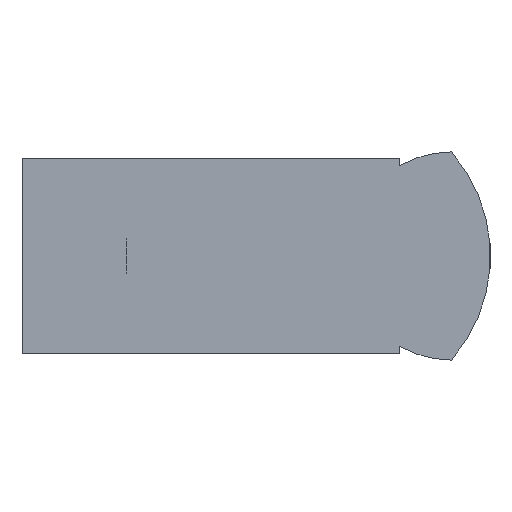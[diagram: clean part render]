
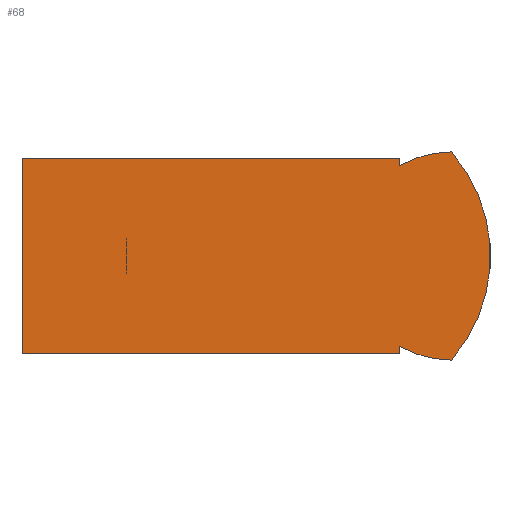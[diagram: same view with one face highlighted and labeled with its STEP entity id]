
A CAD part, left-side view. The second image highlights one B-rep face of the part: STEP entity #68.
In plain terms, the highlighted planar face has unit normal (-1, 0, 0).
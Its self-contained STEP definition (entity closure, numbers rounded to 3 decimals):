
#68 = ADVANCED_FACE( '', ( #153 ), #154, .F. );
#153 = FACE_OUTER_BOUND( '', #258, .T. );
#154 = PLANE( '', #259 );
#258 = EDGE_LOOP( '', ( #393, #394, #395, #396, #397, #398, #399, #400 ) );
#259 = AXIS2_PLACEMENT_3D( '', #401, #402, #403 );
#393 = ORIENTED_EDGE( '', *, *, #622, .F. );
#394 = ORIENTED_EDGE( '', *, *, #623, .T. );
#395 = ORIENTED_EDGE( '', *, *, #624, .T. );
#396 = ORIENTED_EDGE( '', *, *, #588, .F. );
#397 = ORIENTED_EDGE( '', *, *, #625, .F. );
#398 = ORIENTED_EDGE( '', *, *, #626, .T. );
#399 = ORIENTED_EDGE( '', *, *, #627, .F. );
#400 = ORIENTED_EDGE( '', *, *, #628, .F. );
#401 = CARTESIAN_POINT( '', ( -6., -28.416, 0. ) );
#402 = DIRECTION( '', ( 1., 0., 0. ) );
#403 = DIRECTION( '', ( 0., 0., -1. ) );
#588 = EDGE_CURVE( '', #685, #686, #687, .T. );
#622 = EDGE_CURVE( '', #744, #745, #746, .T. );
#623 = EDGE_CURVE( '', #744, #747, #748, .T. );
#624 = EDGE_CURVE( '', #747, #686, #749, .T. );
#625 = EDGE_CURVE( '', #750, #685, #751, .T. );
#626 = EDGE_CURVE( '', #750, #752, #753, .T. );
#627 = EDGE_CURVE( '', #754, #752, #755, .T. );
#628 = EDGE_CURVE( '', #745, #754, #756, .T. );
#685 = VERTEX_POINT( '', #827 );
#686 = VERTEX_POINT( '', #828 );
#687 = LINE( '', #829, #830 );
#744 = VERTEX_POINT( '', #910 );
#745 = VERTEX_POINT( '', #911 );
#746 = CIRCLE( '', #912, 8. );
#747 = VERTEX_POINT( '', #913 );
#748 = LINE( '', #914, #915 );
#749 = LINE( '', #916, #917 );
#750 = VERTEX_POINT( '', #918 );
#751 = LINE( '', #919, #920 );
#752 = VERTEX_POINT( '', #921 );
#753 = LINE( '', #922, #923 );
#754 = VERTEX_POINT( '', #924 );
#755 = CIRCLE( '', #925, 8. );
#756 = CIRCLE( '', #926, 12.167 );
#827 = CARTESIAN_POINT( '', ( -6., 0., -7.5 ) );
#828 = CARTESIAN_POINT( '', ( -6., 0., 7.5 ) );
#829 = CARTESIAN_POINT( '', ( -6., 0., -7.5 ) );
#830 = VECTOR( '', #1019, 1000. );
#910 = CARTESIAN_POINT( '', ( -6., -29., 6.928 ) );
#911 = CARTESIAN_POINT( '', ( -6., -33., 8. ) );
#912 = AXIS2_PLACEMENT_3D( '', #1052, #1053, #1054 );
#913 = CARTESIAN_POINT( '', ( -6., -29., 7.5 ) );
#914 = CARTESIAN_POINT( '', ( -6., -29., -7.5 ) );
#915 = VECTOR( '', #1055, 1000. );
#916 = CARTESIAN_POINT( '', ( -6., -29., 7.5 ) );
#917 = VECTOR( '', #1056, 1000. );
#918 = CARTESIAN_POINT( '', ( -6., -29., -7.5 ) );
#919 = CARTESIAN_POINT( '', ( -6., -29., -7.5 ) );
#920 = VECTOR( '', #1057, 1000. );
#921 = CARTESIAN_POINT( '', ( -6., -29., -6.928 ) );
#922 = CARTESIAN_POINT( '', ( -6., -29., -7.5 ) );
#923 = VECTOR( '', #1058, 1000. );
#924 = CARTESIAN_POINT( '', ( -6., -33., -8. ) );
#925 = AXIS2_PLACEMENT_3D( '', #1059, #1060, #1061 );
#926 = AXIS2_PLACEMENT_3D( '', #1062, #1063, #1064 );
#1019 = DIRECTION( '', ( 0., 0., 1. ) );
#1052 = CARTESIAN_POINT( '', ( -6., -33., 0. ) );
#1053 = DIRECTION( '', ( 1., 0., 0. ) );
#1054 = DIRECTION( '', ( 0., 0., -1. ) );
#1055 = DIRECTION( '', ( 0., 0., 1. ) );
#1056 = DIRECTION( '', ( 0., 1., 0. ) );
#1057 = DIRECTION( '', ( 0., 1., 0. ) );
#1058 = DIRECTION( '', ( 0., 0., 1. ) );
#1059 = CARTESIAN_POINT( '', ( -6., -33., 0. ) );
#1060 = DIRECTION( '', ( 1., 0., 0. ) );
#1061 = DIRECTION( '', ( 0., 0., -1. ) );
#1062 = CARTESIAN_POINT( '', ( -6., -23.833, 0. ) );
#1063 = DIRECTION( '', ( 1., 0., 0. ) );
#1064 = DIRECTION( '', ( 0., 0., -1. ) );
